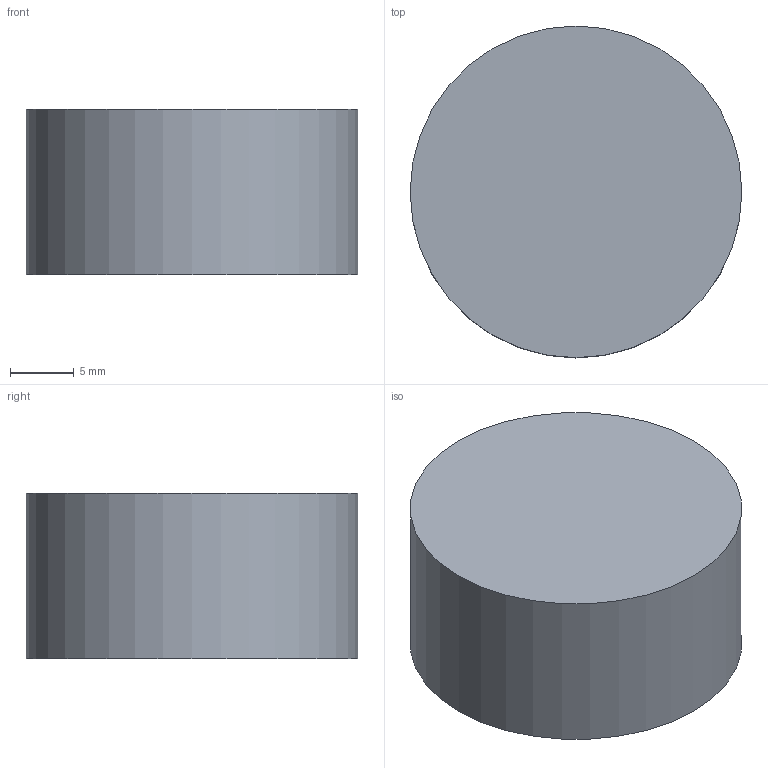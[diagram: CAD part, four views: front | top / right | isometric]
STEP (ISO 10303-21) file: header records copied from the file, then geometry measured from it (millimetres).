
FILE_DESCRIPTION(('Open CASCADE Model'),'2;1');
FILE_NAME('Open CASCADE Shape Model','2026-10-04T01:02:36',('Author'),( 'Open CASCADE'),'Open CASCADE STEP processor 8.0','Open CASCADE 8.0' ,'Unknown');
FILE_SCHEMA(('AUTOMOTIVE_DESIGN { 1 0 10303 214 1 1 1 1 }'));
Length unit declared in the file: millimetre
Products named in the file (1): Open CASCADE STEP translator 8.0 408
Bounding box: 26 x 26 x 13 mm (x, y, z)
Volume: 6902.1 mm3; surface area: 2123.7 mm2
Topology: 1 solids, 1 shells, 3 faces, 3 edges, 2 vertices
Faces by surface type: plane 2, cylinder 1
Full cylindrical faces by diameter (mm): 26 x1
Entity records: 108 total; most frequent: DIRECTION 19, CARTESIAN_POINT 15, AXIS2_PLACEMENT_3D 6, ORIENTED_EDGE 6, PCURVE 6, DEFINITIONAL_REPRESENTATION 6, LINE 5, VECTOR 5
